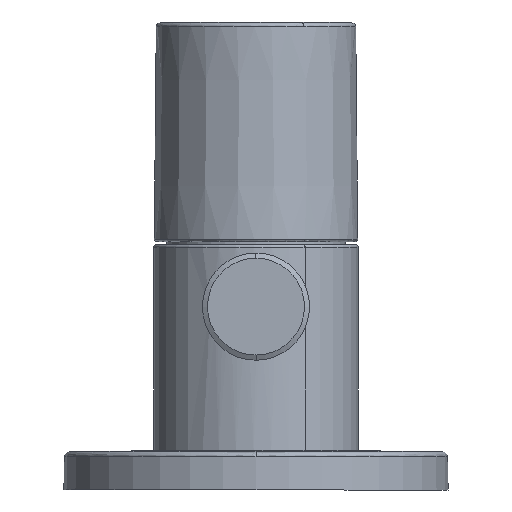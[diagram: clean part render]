
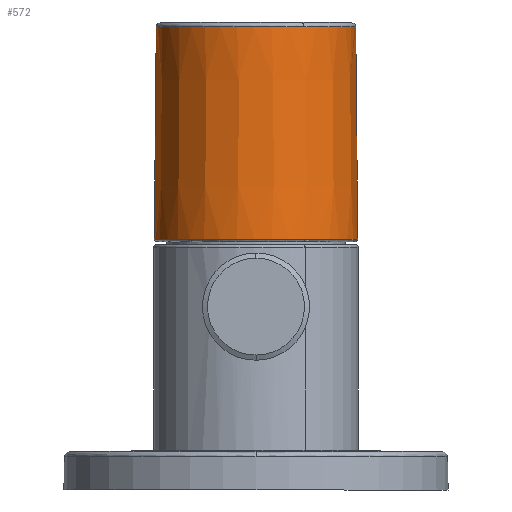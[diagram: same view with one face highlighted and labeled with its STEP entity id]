
A CAD part, front view. The second image highlights one B-rep face of the part: STEP entity #572.
In plain terms, the highlighted conical face has half-angle 0.535 degrees and reference radius 19.895 mm.
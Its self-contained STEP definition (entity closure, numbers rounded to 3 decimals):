
#4 = DIRECTION ( 'NONE',  ( 0., 0., -1. ) ) ;
#34 = CARTESIAN_POINT ( 'NONE',  ( -19.895, 0., 49.273 ) ) ;
#113 = DIRECTION ( 'NONE',  ( 0.479, -0.878, 0. ) ) ;
#129 = DIRECTION ( 'NONE',  ( 0., 0., -1. ) ) ;
#136 = EDGE_CURVE ( 'NONE', #386, #558, #1346, .T. ) ;
#161 = CARTESIAN_POINT ( 'NONE',  ( 19.507, 0., 90.799 ) ) ;
#207 = DIRECTION ( 'NONE',  ( 0.479, -0.878, 0. ) ) ;
#215 = CARTESIAN_POINT ( 'NONE',  ( 0., 0., 49.273 ) ) ;
#236 = DIRECTION ( 'NONE',  ( 0., 0., -1. ) ) ;
#267 = CARTESIAN_POINT ( 'NONE',  ( 19.895, 0., 49.273 ) ) ;
#269 = EDGE_CURVE ( 'NONE', #558, #552, #1376, .T. ) ;
#323 = EDGE_CURVE ( 'NONE', #633, #678, #459, .T. ) ;
#360 = AXIS2_PLACEMENT_3D ( 'NONE', #399, #236, #381 ) ;
#374 = CARTESIAN_POINT ( 'NONE',  ( -19.895, 0., 49.273 ) ) ;
#381 = DIRECTION ( 'NONE',  ( 0.479, -0.878, 0. ) ) ;
#386 = VERTEX_POINT ( 'NONE', #374 ) ;
#399 = CARTESIAN_POINT ( 'NONE',  ( 0., 0., 90.799 ) ) ;
#447 = CIRCLE ( 'NONE', #360, 19.507 ) ;
#459 = CIRCLE ( 'NONE', #1450, 19.507 ) ;
#526 = CARTESIAN_POINT ( 'NONE',  ( 9.538, -17.46, 49.273 ) ) ;
#529 = DIRECTION ( 'NONE',  ( 0.009, 0., -1. ) ) ;
#552 = VERTEX_POINT ( 'NONE', #267 ) ;
#558 = VERTEX_POINT ( 'NONE', #526 ) ;
#572 = ADVANCED_FACE ( 'NONE', ( #1196 ), #1438, .T. ) ;
#586 = EDGE_CURVE ( 'NONE', #651, #386, #959, .T. ) ;
#633 = VERTEX_POINT ( 'NONE', #161 ) ;
#651 = VERTEX_POINT ( 'NONE', #1078 ) ;
#678 = VERTEX_POINT ( 'NONE', #680 ) ;
#680 = CARTESIAN_POINT ( 'NONE',  ( 9.352, -17.12, 90.799 ) ) ;
#697 = AXIS2_PLACEMENT_3D ( 'NONE', #787, #4, #803 ) ;
#782 = VECTOR ( 'NONE', #920, 1000. ) ;
#787 = CARTESIAN_POINT ( 'NONE',  ( 0., 0., 49.273 ) ) ;
#803 = DIRECTION ( 'NONE',  ( -1., 0., 0. ) ) ;
#806 = CARTESIAN_POINT ( 'NONE',  ( 19.895, 0., 49.273 ) ) ;
#830 = ORIENTED_EDGE ( 'NONE', *, *, #136, .T. ) ;
#846 = ORIENTED_EDGE ( 'NONE', *, *, #1553, .T. ) ;
#900 = ORIENTED_EDGE ( 'NONE', *, *, #586, .T. ) ;
#920 = DIRECTION ( 'NONE',  ( -0.009, 0., -1. ) ) ;
#959 = LINE ( 'NONE', #34, #782 ) ;
#1038 = AXIS2_PLACEMENT_3D ( 'NONE', #215, #1262, #207 ) ;
#1046 = CARTESIAN_POINT ( 'NONE',  ( 0., 0., 90.799 ) ) ;
#1056 = CARTESIAN_POINT ( 'NONE',  ( 0., 0., 49.273 ) ) ;
#1064 = DIRECTION ( 'NONE',  ( 0.479, -0.878, 0. ) ) ;
#1078 = CARTESIAN_POINT ( 'NONE',  ( -19.507, 0., 90.799 ) ) ;
#1167 = EDGE_LOOP ( 'NONE', ( #1354, #1334, #846, #900, #830, #1332 ) ) ;
#1196 = FACE_OUTER_BOUND ( 'NONE', #1167, .T. ) ;
#1258 = LINE ( 'NONE', #806, #1396 ) ;
#1262 = DIRECTION ( 'NONE',  ( 0., 0., 1. ) ) ;
#1332 = ORIENTED_EDGE ( 'NONE', *, *, #269, .T. ) ;
#1334 = ORIENTED_EDGE ( 'NONE', *, *, #323, .T. ) ;
#1346 = CIRCLE ( 'NONE', #1038, 19.895 ) ;
#1354 = ORIENTED_EDGE ( 'NONE', *, *, #1508, .F. ) ;
#1376 = CIRCLE ( 'NONE', #1593, 19.895 ) ;
#1396 = VECTOR ( 'NONE', #529, 1000. ) ;
#1438 = CONICAL_SURFACE ( 'NONE', #697, 19.895, 0.009 ) ;
#1450 = AXIS2_PLACEMENT_3D ( 'NONE', #1046, #129, #1064 ) ;
#1459 = DIRECTION ( 'NONE',  ( 0., 0., 1. ) ) ;
#1508 = EDGE_CURVE ( 'NONE', #633, #552, #1258, .T. ) ;
#1553 = EDGE_CURVE ( 'NONE', #678, #651, #447, .T. ) ;
#1593 = AXIS2_PLACEMENT_3D ( 'NONE', #1056, #1459, #113 ) ;
